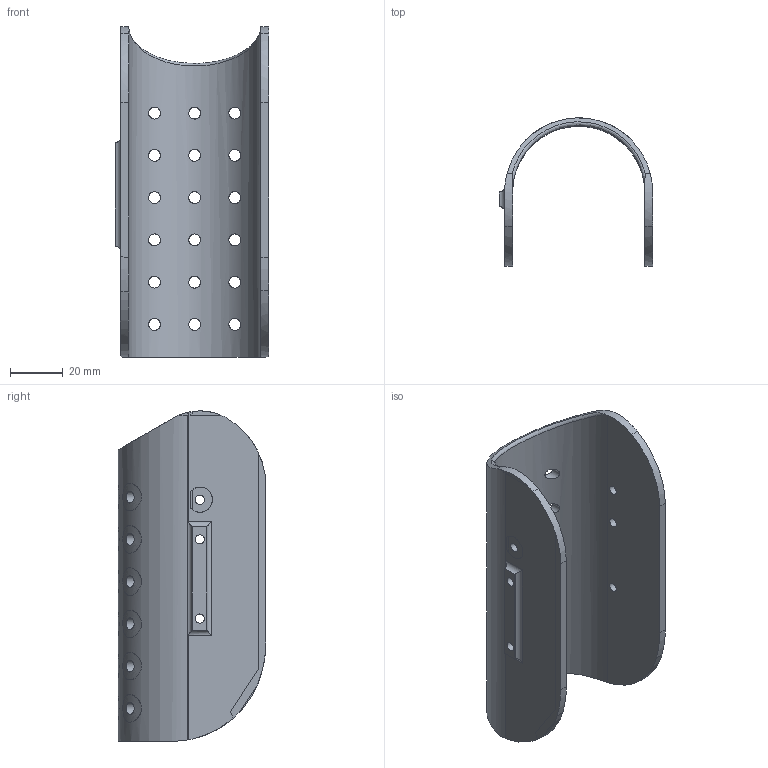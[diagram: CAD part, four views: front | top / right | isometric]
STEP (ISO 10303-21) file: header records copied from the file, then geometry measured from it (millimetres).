
FILE_DESCRIPTION(/* description */ (''),/* implementation_level */ '2;1');
FILE_NAME(/* name */ 'AFO size xl right top.step',/* time_stamp */ '2025-12-04T09:10:34+01:00',/* author */ (''),/* organization */ (''),/* preprocessor_version */ 'ST-DEVELOPER v20.1',/* originating_system */ 'Autodesk Translation Framework v14.21.0.0',/* authorisation */ '');
FILE_SCHEMA (('AUTOMOTIVE_DESIGN { 1 0 10303 214 3 1 1 }'));
Length unit declared in the file: millimetre
Products named in the file (1): 2025-10-02-12-56-12-317
Bounding box: 58 x 56 x 125.04 mm (x, y, z)
Volume: 46631.9 mm3; surface area: 33497.4 mm2
Topology: 1 solids, 1 shells, 115 faces, 381 edges, 288 vertices
Faces by surface type: cylinder 81, plane 30, bspline 4
Full cylindrical faces by diameter (mm): 3.5 x6, 4.5 x18, 9.48 x1, 10.48 x18
Entity records: 7115 total; most frequent: CARTESIAN_POINT 3947, ORIENTED_EDGE 762, DIRECTION 444, EDGE_CURVE 381, VERTEX_POINT 288, B_SPLINE_CURVE_WITH_KNOTS 214, EDGE_LOOP 183, AXIS2_PLACEMENT_3D 165
